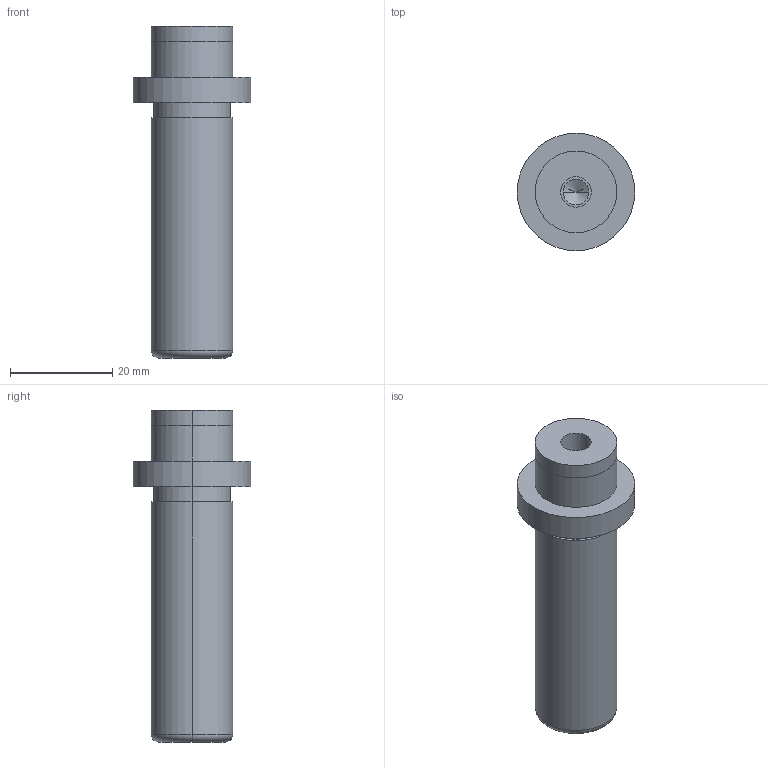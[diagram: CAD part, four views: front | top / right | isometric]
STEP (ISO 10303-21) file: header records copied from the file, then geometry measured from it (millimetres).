
FILE_DESCRIPTION(/* description */ (''),/* implementation_level */ '2;1');
FILE_NAME(/* name */ '3d_sgpw16-55_05276_r00.stp',/* time_stamp */ '2011-01-10T14:11:04+09:00',/* author */ ('MISUMI'),/* organization */ (''),/* preprocessor_version */ 'ST-DEVELOPER v11',/* originating_system */ 'UGS - NX 5.0',/* authorisation */ '');
FILE_SCHEMA (('CONFIG_CONTROL_DESIGN'));
Length unit declared in the file: millimetre
Products named in the file (1): 3d_sgpw16-55_05276_r00
Bounding box: 23 x 23 x 65 mm (x, y, z)
Volume: 13240.5 mm3; surface area: 4754.2 mm2
Topology: 1 solids, 1 shells, 31 faces, 64 edges, 38 vertices
Faces by surface type: cylinder 18, plane 7, cone 4, torus 2
Entity records: 890 total; most frequent: DIRECTION 162, CARTESIAN_POINT 130, ORIENTED_EDGE 120, AXIS2_PLACEMENT_3D 70, EDGE_CURVE 60, EDGE_LOOP 38, CIRCLE 38, VERTEX_POINT 38
